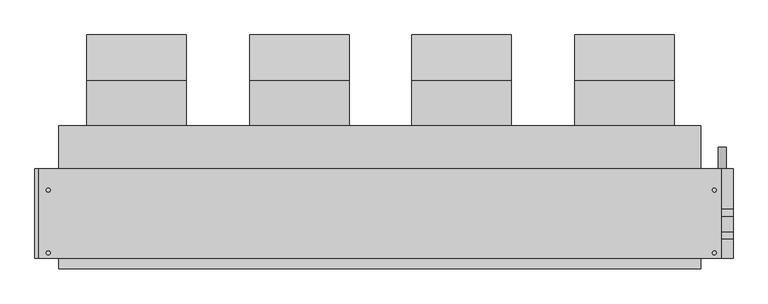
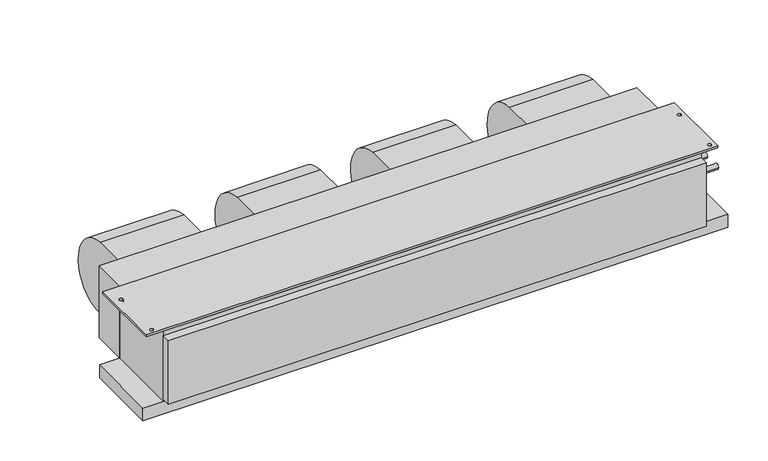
"""IFC4 building model written with IfcOpenShell, lengths in millimetres: proxy geometry, Concealed_Horizontal_Fan_Coil_Unit_-_42CAA_-_CARRIER_-_2-Pipe_Cool-EHeat_RH_2022 : Size 12 - 277v/60Hz/1Ph - 4 Row 10.0kW."""

from ifc_helpers import new_model, si_unit, point, frame, frame_2d, origin, place, context, project, spatial, polyline, circle_curve, trimmed, segment, composite_curve, outline, extrude, source, transform, mapped, element, save


def mechanical_equipment_1a111bbf(model_context):
    return source(origin(), model_context, "Body", "SweptSolid", [
        extrude(outline(composite_curve([segment(trimmed(circle_curve(frame_2d((68.401169, -136.0299844)), 117.3559541), [point((77.7875, -19.05))], [point((185.7375, -138.176))], False, "CARTESIAN"), True, "CONTINUOUS"), segment(trimmed(circle_curve(frame_2d((90.0022663, -136.4250563)), 95.7512443), [point((185.7375, -138.176))], [point((77.7875, -231.394))], False, "CARTESIAN"), True, "CONTINUOUS"), segment(trimmed(circle_curve(frame_2d((89.9711869, -136.6666968)), 95.5076133), [point((77.7875, -231.394))], [point((-5.5245, -138.176))], False, "CARTESIAN"), True, "CONTINUOUS"), segment(trimmed(circle_curve(frame_2d((-24.6059828, -138.4775816)), 19.0838659), [point((-5.5245, -138.176))], [point((-17.7963373, -120.65))], True, "CARTESIAN"), True, "CONTINUOUS"), segment(polyline([(-17.7963373, -120.65), (-30.1625, -120.65), (-30.1625, -19.05), (77.7875, -19.05)]), True, "CONTINUOUS")], self_intersect=False)), frame((615.188, 0.0, 0.0), z_axis=(1.0, 0.0, 0.0), x_axis=(0.0, 1.0, 0.0)), (0.0, 0.0, 1.0), 235.712),
        extrude(outline(composite_curve([segment(trimmed(circle_curve(frame_2d((68.401169, -136.0299844)), 117.3559541), [point((77.7875, -19.05))], [point((185.7375, -138.176))], False, "CARTESIAN"), True, "CONTINUOUS"), segment(trimmed(circle_curve(frame_2d((90.0022663, -136.4250563)), 95.7512443), [point((185.7375, -138.176))], [point((77.7875, -231.394))], False, "CARTESIAN"), True, "CONTINUOUS"), segment(trimmed(circle_curve(frame_2d((89.9711869, -136.6666968)), 95.5076133), [point((77.7875, -231.394))], [point((-5.5245, -138.176))], False, "CARTESIAN"), True, "CONTINUOUS"), segment(trimmed(circle_curve(frame_2d((-24.6059828, -138.4775816)), 19.0838659), [point((-5.5245, -138.176))], [point((-17.7963373, -120.65))], True, "CARTESIAN"), True, "CONTINUOUS"), segment(polyline([(-17.7963373, -120.65), (-30.1625, -120.65), (-30.1625, -19.05), (77.7875, -19.05)]), True, "CONTINUOUS")], self_intersect=False)), frame((-543.687, 0.0, 0.0), z_axis=(1.0, 0.0, 0.0), x_axis=(0.0, 1.0, 0.0)), (0.0, 0.0, 1.0), 235.712),
        extrude(outline(composite_curve([segment(trimmed(circle_curve(frame_2d((68.401169, -136.0299844)), 117.3559541), [point((77.7875, -19.05))], [point((185.7375, -138.176))], False, "CARTESIAN"), True, "CONTINUOUS"), segment(trimmed(circle_curve(frame_2d((90.0022663, -136.4250563)), 95.7512443), [point((185.7375, -138.176))], [point((77.7875, -231.394))], False, "CARTESIAN"), True, "CONTINUOUS"), segment(trimmed(circle_curve(frame_2d((89.9711869, -136.6666968)), 95.5076133), [point((77.7875, -231.394))], [point((-5.5245, -138.176))], False, "CARTESIAN"), True, "CONTINUOUS"), segment(trimmed(circle_curve(frame_2d((-24.6059828, -138.4775816)), 19.0838659), [point((-5.5245, -138.176))], [point((-17.7963373, -120.65))], True, "CARTESIAN"), True, "CONTINUOUS"), segment(polyline([(-17.7963373, -120.65), (-30.1625, -120.65), (-30.1625, -19.05), (77.7875, -19.05)]), True, "CONTINUOUS")], self_intersect=False)), frame((-156.337, 0.0, 0.0), z_axis=(1.0, 0.0, 0.0), x_axis=(0.0, 1.0, 0.0)), (0.0, 0.0, 1.0), 235.712),
        extrude(outline(composite_curve([segment(trimmed(circle_curve(frame_2d((68.401169, -136.0299844)), 117.3559541), [point((77.7875, -19.05))], [point((185.7375, -138.176))], False, "CARTESIAN"), True, "CONTINUOUS"), segment(trimmed(circle_curve(frame_2d((90.0022663, -136.4250563)), 95.7512443), [point((185.7375, -138.176))], [point((77.7875, -231.394))], False, "CARTESIAN"), True, "CONTINUOUS"), segment(trimmed(circle_curve(frame_2d((89.9711869, -136.6666968)), 95.5076133), [point((77.7875, -231.394))], [point((-5.5245, -138.176))], False, "CARTESIAN"), True, "CONTINUOUS"), segment(trimmed(circle_curve(frame_2d((-24.6059828, -138.4775816)), 19.0838659), [point((-5.5245, -138.176))], [point((-17.7963373, -120.65))], True, "CARTESIAN"), True, "CONTINUOUS"), segment(polyline([(-17.7963373, -120.65), (-30.1625, -120.65), (-30.1625, -19.05), (77.7875, -19.05)]), True, "CONTINUOUS")], self_intersect=False)), frame((227.838, 0.0, 0.0), z_axis=(1.0, 0.0, 0.0), x_axis=(0.0, 1.0, 0.0)), (0.0, 0.0, 1.0), 235.712),
        extrude(outline(polyline([(962.025, -131.7625), (962.025, -344.4875), (-657.225, -344.4875), (-657.225, -131.7625), (962.025, -131.7625)]), holes=[composite_curve([segment(trimmed(circle_curve(frame_2d((-635.0, -182.5625)), 4.7625), [point((-639.7625, -182.5625))], [point((-630.2375, -182.5625))], True, "CARTESIAN"), True, "CONTINUOUS"), segment(trimmed(circle_curve(frame_2d((-635.0, -182.5625)), 4.7625), [point((-630.2375, -182.5625))], [point((-639.7625, -182.5625))], True, "CARTESIAN"), True, "CONTINUOUS")], self_intersect=False), composite_curve([segment(trimmed(circle_curve(frame_2d((-635.0, -331.7875)), 4.7625), [point((-639.7625, -331.7875))], [point((-630.2375, -331.7875))], True, "CARTESIAN"), True, "CONTINUOUS"), segment(trimmed(circle_curve(frame_2d((-635.0, -331.7875)), 4.7625), [point((-630.2375, -331.7875))], [point((-639.7625, -331.7875))], True, "CARTESIAN"), True, "CONTINUOUS")], self_intersect=False), composite_curve([segment(trimmed(circle_curve(frame_2d((946.15, -182.5625)), 4.7625), [point((941.3875, -182.5625))], [point((950.9125, -182.5625))], True, "CARTESIAN"), True, "CONTINUOUS"), segment(trimmed(circle_curve(frame_2d((946.15, -182.5625)), 4.7625), [point((950.9125, -182.5625))], [point((941.3875, -182.5625))], True, "CARTESIAN"), True, "CONTINUOUS")], self_intersect=False), composite_curve([segment(trimmed(circle_curve(frame_2d((946.15, -331.7875)), 4.7625), [point((941.3875, -331.7875))], [point((950.9125, -331.7875))], True, "CARTESIAN"), True, "CONTINUOUS"), segment(trimmed(circle_curve(frame_2d((946.15, -331.7875)), 4.7625), [point((950.9125, -331.7875))], [point((941.3875, -331.7875))], True, "CARTESIAN"), True, "CONTINUOUS")], self_intersect=False)]), frame((0.0, 0.0, -6.35), z_axis=(0.0, 0.0, 1.0), x_axis=(1.0, 0.0, 0.0)), (0.0, 0.0, 1.0), 6.35),
        extrude(outline(polyline([(-609.6, -30.1625), (914.4, -30.1625), (914.4, -131.7625), (-609.6, -131.7625), (-609.6, -30.1625)])), frame((0.0, 0.0, -215.9), z_axis=(0.0, 0.0, 1.0), x_axis=(1.0, 0.0, 0.0)), (0.0, 0.0, 1.0), 215.9),
        extrude(outline(composite_curve([segment(trimmed(circle_curve(frame_2d((-241.3, 965.2)), 9.525), [point((-241.3, 955.675))], [point((-241.3, 974.725))], False, "CARTESIAN"), True, "CONTINUOUS"), segment(trimmed(circle_curve(frame_2d((-241.3, 965.2)), 9.525), [point((-241.3, 974.725))], [point((-241.3, 955.675))], False, "CARTESIAN"), True, "CONTINUOUS")], self_intersect=False)), frame((0.0, -131.7625, 0.0), z_axis=(0.0, 1.0, 0.0), x_axis=(0.0, 0.0, 1.0)), (0.0, 0.0, 1.0), 50.8),
        extrude(outline(polyline([(914.4, -369.8875), (-609.6, -369.8875), (-609.6, -344.4875), (914.4, -344.4875), (914.4, -369.8875)])), frame((0.0, 0.0, -209.55), z_axis=(0.0, 0.0, 1.0), x_axis=(1.0, 0.0, 0.0)), (0.0, 0.0, 1.0), 190.5),
        extrude(outline(polyline([(990.6, -131.7625), (990.6, -344.4875), (-666.75, -344.4875), (-666.75, -131.7625), (990.6, -131.7625)])), frame((0.0, 0.0, -254.0), z_axis=(0.0, 0.0, 1.0), x_axis=(1.0, 0.0, 0.0)), (0.0, 0.0, 1.0), 38.1),
        extrude(outline(composite_curve([segment(trimmed(circle_curve(frame_2d((-290.5125, -104.775)), 7.9375), [point((-298.45, -104.775))], [point((-282.575, -104.775))], False, "CARTESIAN"), True, "CONTINUOUS"), segment(trimmed(circle_curve(frame_2d((-290.5125, -104.775)), 7.9375), [point((-282.575, -104.775))], [point((-298.45, -104.775))], False, "CARTESIAN"), True, "CONTINUOUS")], self_intersect=False)), frame((914.4, 0.0, 0.0), z_axis=(1.0, 0.0, 0.0), x_axis=(0.0, 1.0, 0.0)), (0.0, 0.0, 1.0), 76.2),
        extrude(outline(composite_curve([segment(trimmed(circle_curve(frame_2d((-236.5375, -104.775)), 7.9375), [point((-244.475, -104.775))], [point((-228.6, -104.775))], False, "CARTESIAN"), True, "CONTINUOUS"), segment(trimmed(circle_curve(frame_2d((-236.5375, -104.775)), 7.9375), [point((-228.6, -104.775))], [point((-244.475, -104.775))], False, "CARTESIAN"), True, "CONTINUOUS")], self_intersect=False)), frame((914.4, 0.0, 0.0), z_axis=(1.0, 0.0, 0.0), x_axis=(0.0, 1.0, 0.0)), (0.0, 0.0, 1.0), 76.2),
        extrude(outline(polyline([(914.4, -344.4875), (-609.6, -344.4875), (-609.6, -131.7625), (914.4, -131.7625), (914.4, -344.4875)])), frame((0.0, 0.0, -215.9), z_axis=(0.0, 0.0, 1.0), x_axis=(1.0, 0.0, 0.0)), (0.0, 0.0, 1.0), 209.55),
    ])


if __name__ == "__main__":
    model = new_model("IFC4")
    model_context = context("Model", 3, world=origin())
    ifc_project = project(units=[si_unit("LENGTHUNIT", "METRE", prefix="MILLI")], contexts=[model_context])
    site = spatial("IfcSite", under=ifc_project)
    building = spatial("IfcBuilding", under=site)
    placement = place(None, origin())
    mechanical_equipment_shape = mechanical_equipment_1a111bbf(model_context)
    element("IfcBuildingElementProxy", 1, Name="Concealed_Horizontal_Fan_Coil_Unit_-_42CAA_-_CARRIER_-_2-Pipe_Cool-EHeat_RH_2022 : Size 12 - 277v/60Hz/1Ph - 4 Row 10.0kW", ObjectType="Concealed_Horizontal_Fan_Coil_Unit_-_42CAA_-_CARRIER_-_2-Pipe_Cool-EHeat_RH_2022 : Size 12 - 277v/60Hz/1Ph - 4 Row 10.0kW", at=placement, inside=building, context=model_context, shape_type="MappedRepresentation", body=[
        mapped(mechanical_equipment_shape, transform((0.0, 0.0, 0.0), x_axis=(1.0, 0.0, 0.0), y_axis=(0.0, 1.0, 0.0), z_axis=(0.0, 0.0, 1.0))),
    ])
    save(model, "model.ifc")
